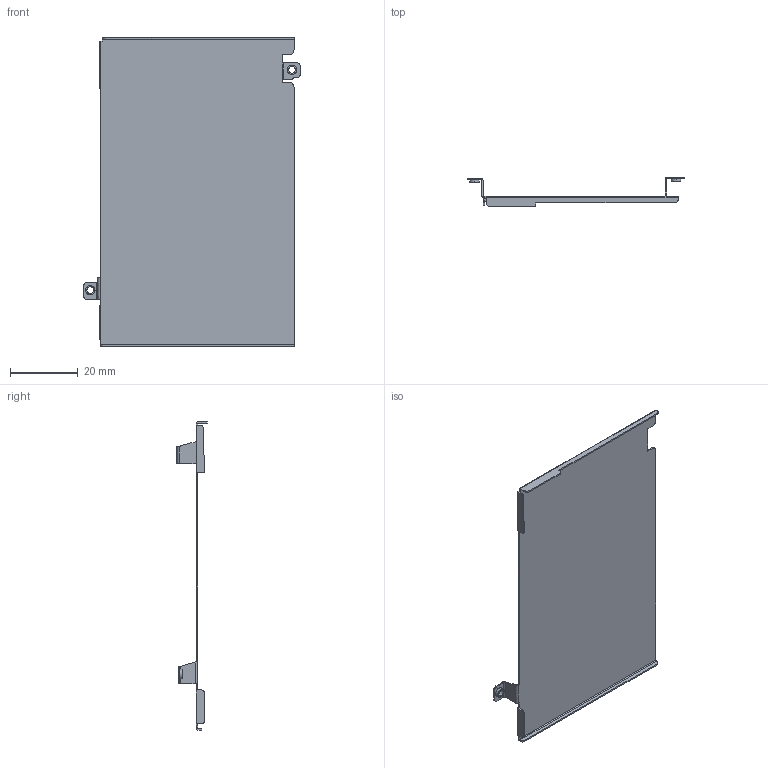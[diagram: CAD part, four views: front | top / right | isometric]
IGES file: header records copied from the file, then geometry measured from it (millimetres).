
Start section:  PTC IGES file: batt-shield_prt.igs
Global section: file name: batt-shield_prt.igs; native system: Pro/ENGINEER by Parametric Technology Corporation; preprocessor: 2000030; author: ECaille; organization: Unknown; date: 000803.091921; units: millimetre
Bounding box: 63.8 x 8.85 x 91 mm (x, y, z)
Surface area: 11125.6 mm2 (no closed solid volume)
Topology: 0 solids, 0 shells, 83 faces, 770 edges, 1056 vertices
Faces by surface type: bspline 49, revolution 34
